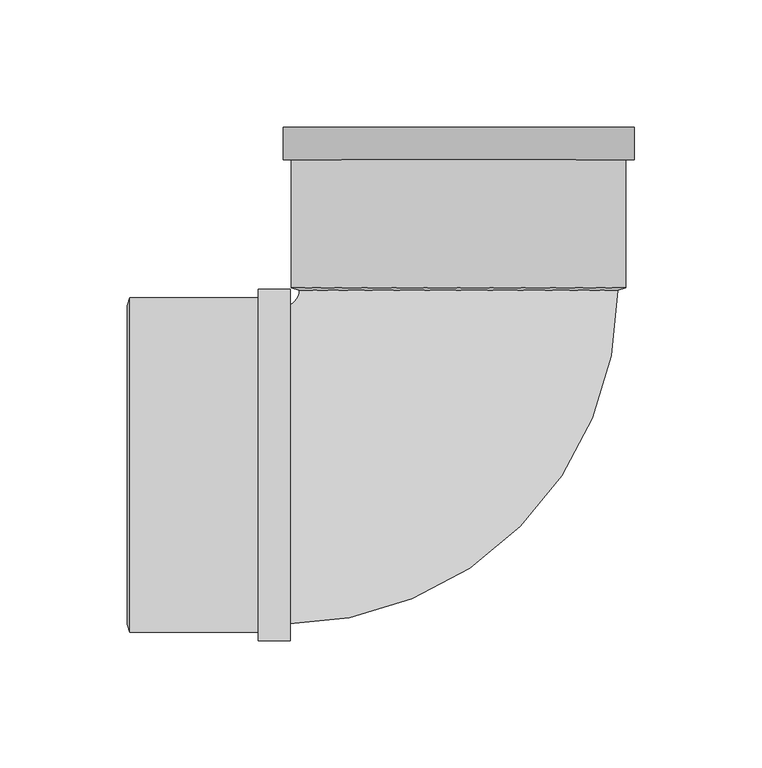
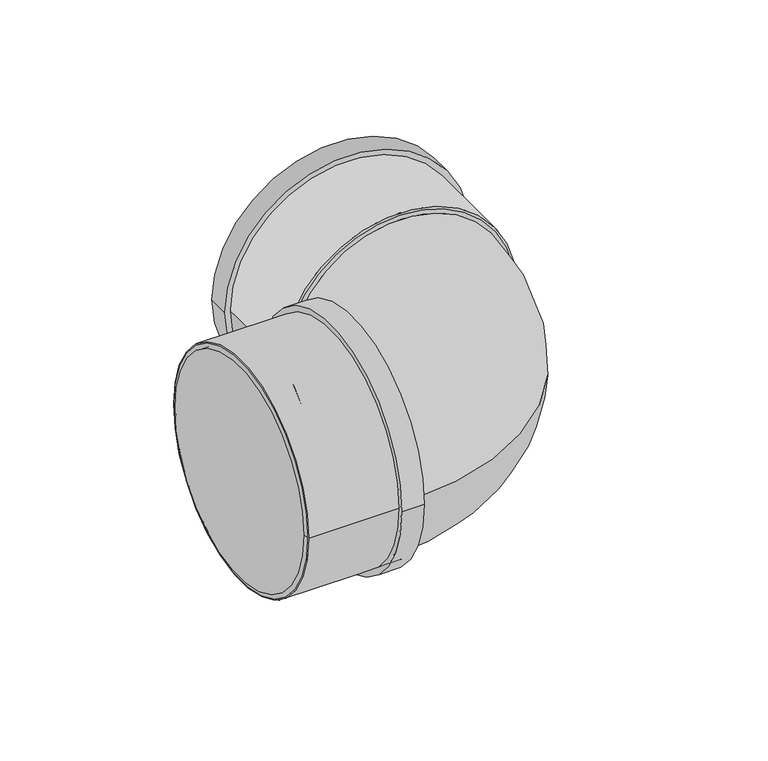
"""IFC4 building model written with IfcOpenShell, lengths in millimetres: pipe fitting geometry, Superdrain HT Bend Composite 2x45 : Superdrain HT Bend Composite 2x45."""

from ifc_helpers import new_model, si_unit, point, frame, origin, origin_2d, place, context, project, spatial, polyline, circle_curve, ellipse_curve, trimmed, segment, composite_curve, outline, extrude, source, transform, mapped, element, save
from ifc_brep_helpers import plane_surface, revolved_surface, advanced_brep


def pipe_fitting_cda3bc95(model_context):
    return source(origin(), model_context, "Body", "SolidModel", [
        extrude(outline(composite_curve([segment(trimmed(circle_curve(origin_2d(), 65.625), [point((65.625, 0.0))], [point((-65.625, 0.0))], False, "CARTESIAN"), True, "CONTINUOUS"), segment(trimmed(circle_curve(origin_2d(), 65.625), [point((-65.625, 0.0))], [point((65.625, 0.0))], False, "CARTESIAN"), True, "CONTINUOUS")], self_intersect=False), holes=[composite_curve([segment(trimmed(circle_curve(origin_2d(), 62.5), [point((62.5, 0.0))], [point((-62.5, 0.0))], True, "CARTESIAN"), True, "CONTINUOUS"), segment(trimmed(circle_curve(origin_2d(), 62.5), [point((-62.5, 0.0))], [point((62.5, 0.0))], True, "CARTESIAN"), True, "CONTINUOUS")], self_intersect=False)]), frame((-129.0, 0.0, 0.0), z_axis=(1.0, 0.0, 0.0), x_axis=(0.0, 1.0, 0.0)), (0.0, 0.0, 1.0), 63.0),
        extrude(outline(composite_curve([segment(trimmed(circle_curve(origin_2d(), 68.90625), [point((68.90625, 0.0))], [point((-68.90625, 0.0))], False, "CARTESIAN"), True, "CONTINUOUS"), segment(trimmed(circle_curve(origin_2d(), 68.90625), [point((-68.90625, 0.0))], [point((68.90625, 0.0))], False, "CARTESIAN"), True, "CONTINUOUS")], self_intersect=False), holes=[composite_curve([segment(trimmed(circle_curve(origin_2d(), 62.5), [point((62.5, 0.0))], [point((-62.5, 0.0))], True, "CARTESIAN"), True, "CONTINUOUS"), segment(trimmed(circle_curve(origin_2d(), 62.5), [point((-62.5, 0.0))], [point((62.5, 0.0))], True, "CARTESIAN"), True, "CONTINUOUS")], self_intersect=False)]), frame((-78.6, 0.0, 0.0), z_axis=(1.0, 0.0, 0.0), x_axis=(0.0, 1.0, 0.0)), (0.0, 0.0, 1.0), 12.6),
        advanced_brep(
        [(-130.0, 62.5, 0.0), (-130.0, -62.5, 0.0), (-129.0, 65.625, 0.0), (-129.0, -65.625, 0.0)],
        [
            (0, 1, circle_curve(frame((-130.0, 0.0, 0.0), z_axis=(-1.0, 0.0, 0.0), x_axis=(0.0, 1.0, 0.0)), 62.5)),
            (1, 0, circle_curve(frame((-130.0, 0.0, 0.0), z_axis=(-1.0, 0.0, 0.0), x_axis=(0.0, -1.0, 0.0)), 62.5)),
            (2, 3, circle_curve(frame((-129.0, 0.0, 0.0), z_axis=(1.0, 0.0, 0.0), x_axis=(0.0, -1.0, 0.0)), 65.625)),
            (3, 2, circle_curve(frame((-129.0, 0.0, 0.0), z_axis=(1.0, 0.0, 0.0), x_axis=(0.0, 1.0, 0.0)), 65.625)),
            (3, 1),
            (0, 2),
        ],
        [
            plane_surface(frame((-130.0, 0.0, 0.0), z_axis=(-1.0, 0.0, 0.0), x_axis=(0.0, 0.0, -1.0))),
            plane_surface(frame((-129.0, 0.0, 0.0), z_axis=(1.0, 0.0, 0.0), x_axis=(0.0, 0.0, -1.0))),
            revolved_surface(polyline([(-130.0, 62.5, 0.0), (-129.0, 65.625, 0.0)]), (-150.0, 0.0, 0.0), (1.0, 0.0, 0.0)),
            revolved_surface(polyline([(-130.0, -62.5, 0.0), (-129.0, -65.625, 0.0)]), (-150.0, 0.0, 0.0), (1.0, 0.0, 0.0)),
        ],
        [
            (0, [[1, 2]]),
            (1, [[3, 4]]),
            (2, [[-4, 5, -1, 6]]),
            (3, [[-3, -6, -2, -5]]),
        ],
    ),
        advanced_brep(
        [(62.5, 68.5, 0.0), (-62.5, 68.5, 0.0), (-68.5, -62.5, 0.0), (-68.5, 62.5, 0.0)],
        [
            (0, 1, circle_curve(frame((0.0, 68.5, 0.0), z_axis=(0.0, 1.0, 0.0), x_axis=(-1.0, 0.0, 0.0)), 62.5)),
            (1, 0, circle_curve(frame((0.0, 68.5, 0.0), z_axis=(0.0, 1.0, 0.0), x_axis=(-1.0, 0.0, 0.0)), 62.5)),
            (2, 3, circle_curve(frame((-68.5, 0.0, 0.0), z_axis=(-1.0, 0.0, 0.0), x_axis=(0.0, 1.0, 0.0)), 62.5)),
            (3, 2, circle_curve(frame((-68.5, 0.0, 0.0), z_axis=(-1.0, 0.0, 0.0), x_axis=(0.0, 1.0, 0.0)), 62.5)),
            (3, 1, circle_curve(frame((-68.5, 68.5, 0.0), z_axis=(0.0, 0.0, 1.0), x_axis=(1.0, 0.0, 0.0)), 6.0)),
            (0, 2, circle_curve(frame((-68.5, 68.5, 0.0), z_axis=(0.0, 0.0, -1.0), x_axis=(1.0, 0.0, 0.0)), 131.0)),
        ],
        [
            plane_surface(frame((0.0, 68.5, 0.0), z_axis=(0.0, 1.0, 0.0), x_axis=(0.0, 0.0, -1.0))),
            plane_surface(frame((-68.5, 0.0, 0.0), z_axis=(-1.0, 0.0, 0.0), x_axis=(0.0, 0.0, -1.0))),
            revolved_surface(trimmed(ellipse_curve(frame((0.0, 68.5, 0.0), z_axis=(0.0, -1.0, 0.0), x_axis=(-1.0, 0.0, 0.0)), 62.5, 62.5), [point((-62.5, 68.5, 0.0))], [point((62.5, 68.5, 0.0))], True, "CARTESIAN"), (-68.5, 68.5, 0.0), (0.0, 0.0, 1.0)),
            revolved_surface(trimmed(ellipse_curve(frame((0.0, 68.5, 0.0), z_axis=(0.0, -1.0, 0.0), x_axis=(-1.0, 0.0, 0.0)), 62.5, 62.5), [point((62.5, 68.5, 0.0))], [point((-62.5, 68.5, 0.0))], True, "CARTESIAN"), (-68.5, 68.5, 0.0), (0.0, 0.0, 1.0)),
        ],
        [
            (0, [[1, 2]]),
            (1, [[3, 4]]),
            (2, [[-4, 5, -1, 6]]),
            (3, [[-3, -6, -2, -5]]),
        ],
    ),
        extrude(outline(composite_curve([segment(trimmed(circle_curve(origin_2d(), 65.625), [point((0.0, 65.625))], [point((0.0, -65.625))], False, "CARTESIAN"), True, "CONTINUOUS"), segment(trimmed(circle_curve(origin_2d(), 65.625), [point((0.0, -65.625))], [point((0.0, 65.625))], False, "CARTESIAN"), True, "CONTINUOUS")], self_intersect=False), holes=[composite_curve([segment(trimmed(circle_curve(origin_2d(), 62.5), [point((0.0, 62.5))], [point((0.0, -62.5))], True, "CARTESIAN"), True, "CONTINUOUS"), segment(trimmed(circle_curve(origin_2d(), 62.5), [point((0.0, -62.5))], [point((0.0, 62.5))], True, "CARTESIAN"), True, "CONTINUOUS")], self_intersect=False)]), frame((0.0, 69.5, 0.0), z_axis=(0.0, 1.0, 0.0), x_axis=(0.0, 0.0, 1.0)), (0.0, 0.0, 1.0), 63.0),
        extrude(outline(composite_curve([segment(trimmed(circle_curve(origin_2d(), 68.90625), [point((0.0, -68.90625))], [point((0.0, 68.90625))], False, "CARTESIAN"), True, "CONTINUOUS"), segment(trimmed(circle_curve(origin_2d(), 68.90625), [point((0.0, 68.90625))], [point((0.0, -68.90625))], False, "CARTESIAN"), True, "CONTINUOUS")], self_intersect=False), holes=[composite_curve([segment(trimmed(circle_curve(origin_2d(), 62.5), [point((0.0, -62.5))], [point((0.0, 62.5))], True, "CARTESIAN"), True, "CONTINUOUS"), segment(trimmed(circle_curve(origin_2d(), 62.5), [point((0.0, 62.5))], [point((0.0, -62.5))], True, "CARTESIAN"), True, "CONTINUOUS")], self_intersect=False)]), frame((0.0, 119.9, 0.0), z_axis=(0.0, 1.0, 0.0), x_axis=(0.0, 0.0, 1.0)), (0.0, 0.0, 1.0), 12.6),
        advanced_brep(
        [(65.625, 69.5, 0.0), (-65.625, 69.5, 0.0), (62.5, 68.5, 0.0), (-62.5, 68.5, 0.0)],
        [
            (0, 1, circle_curve(frame((0.0, 69.5, 0.0), z_axis=(0.0, 1.0, 0.0), x_axis=(1.0, 0.0, 0.0)), 65.625)),
            (1, 0, circle_curve(frame((0.0, 69.5, 0.0), z_axis=(0.0, 1.0, 0.0), x_axis=(-1.0, 0.0, 0.0)), 65.625)),
            (2, 3, circle_curve(frame((0.0, 68.5, 0.0), z_axis=(0.0, -1.0, 0.0), x_axis=(-1.0, 0.0, 0.0)), 62.5)),
            (3, 2, circle_curve(frame((0.0, 68.5, 0.0), z_axis=(0.0, -1.0, 0.0), x_axis=(1.0, 0.0, 0.0)), 62.5)),
            (3, 1),
            (0, 2),
        ],
        [
            plane_surface(frame((0.0, 69.5, 0.0), z_axis=(0.0, 1.0, 0.0), x_axis=(0.0, 0.0, -1.0))),
            plane_surface(frame((0.0, 68.5, 0.0), z_axis=(0.0, -1.0, 0.0), x_axis=(0.0, 0.0, -1.0))),
            revolved_surface(polyline([(-62.5, 68.5, 0.0), (-65.625, 69.5, 0.0)]), (0.0, 48.5, 0.0), (0.0, 1.0, 0.0)),
            revolved_surface(polyline([(62.5, 68.5, 0.0), (65.625, 69.5, 0.0)]), (0.0, 48.5, 0.0), (0.0, 1.0, 0.0)),
        ],
        [
            (0, [[1, 2]]),
            (1, [[3, 4]]),
            (2, [[-4, 5, -1, 6]]),
            (3, [[-3, -6, -2, -5]]),
        ],
    ),
        extrude(outline(composite_curve([segment(trimmed(circle_curve(origin_2d(), 62.5), [point((-62.5, 0.0))], [point((62.5, 0.0))], False, "CARTESIAN"), True, "CONTINUOUS"), segment(trimmed(circle_curve(origin_2d(), 62.5), [point((62.5, 0.0))], [point((-62.5, 0.0))], False, "CARTESIAN"), True, "CONTINUOUS")], self_intersect=False)), frame((-129.0, 0.0, 0.0), z_axis=(1.0, 0.0, 0.0), x_axis=(0.0, 1.0, 0.0)), (0.0, 0.0, 1.0), 60.5),
    ])


if __name__ == "__main__":
    model = new_model("IFC4")
    model_context = context("Model", 3, world=origin())
    ifc_project = project(units=[si_unit("LENGTHUNIT", "METRE", prefix="MILLI")], contexts=[model_context])
    site = spatial("IfcSite", under=ifc_project)
    building = spatial("IfcBuilding", under=site)
    placement = place(None, origin())
    pipe_fitting_shape = pipe_fitting_cda3bc95(model_context)
    element("IfcPipeFitting", 1, ObjectType="Superdrain HT Bend Composite 2x45 : Superdrain HT Bend Composite 2x45", at=placement, inside=building, context=model_context, shape_type="MappedRepresentation", body=[
        mapped(pipe_fitting_shape, transform((0.0, 0.0, 0.0), x_axis=(1.0, 0.0, 0.0), y_axis=(0.0, 1.0, 0.0), z_axis=(0.0, 0.0, 1.0))),
    ])
    save(model, "model.ifc")
